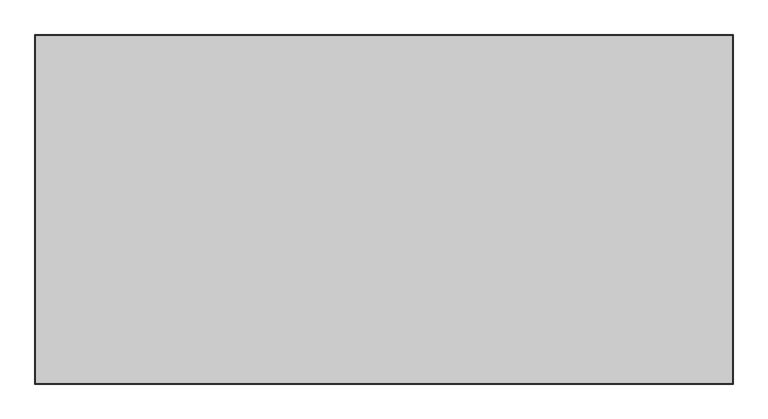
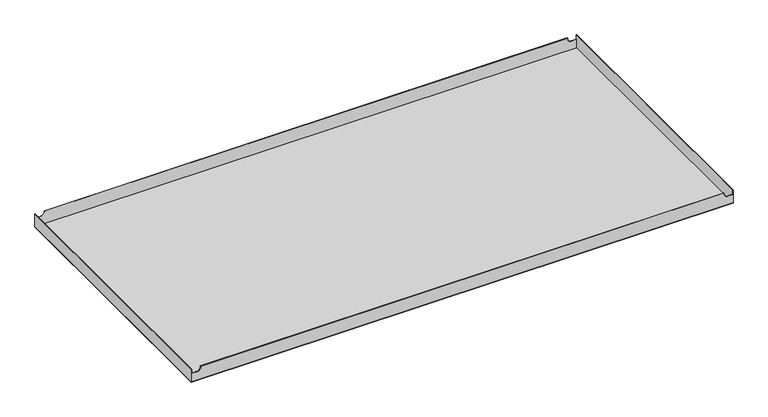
"""IFC4 building model written with IfcOpenShell, lengths in millimetres: proxy geometry, durlum_S1_RHOMBOS_panel : durlum_S1_RHOMBOS_panel."""

from ifc_helpers import new_model, si_unit, origin, origin_with_axes, place, context, project, spatial, polyline, outline, extrude, faceted_brep, source, transform, mapped, element, save


def generic_models_931bb0da(model_context):
    return source(origin(), model_context, "Body", "SolidModel", [
        faceted_brep([(-600.0, 300.0, 30.0), (-600.0, -300.0, 30.0), (-599.4, -300.0, 30.0), (-599.4, 300.0, 30.0), (600.0, -300.0, 30.0), (600.0, 300.0, 30.0), (599.4, 300.0, 30.0), (599.4, -300.0, 30.0), (-579.4, 300.0, 30.0), (-579.4, 299.4, 30.0), (579.4, 299.4, 30.0), (579.4, 300.0, 30.0), (-579.4, -299.4, 30.0), (-579.4, -300.0, 30.0), (579.4, -300.0, 30.0), (579.4, -299.4, 30.0), (600.0, 300.0, 0.6), (600.0, -300.0, 0.6), (-600.0, -300.0, 0.6), (-600.0, 300.0, 0.6), (599.4, 299.4, 0.6), (-599.4, 299.4, 0.6), (-599.4, -299.4, 0.6), (599.4, -299.4, 0.6), (-599.4, 300.0, 20.1669893), (-584.6658218, 300.0, 20.1669893), (-579.4, 300.0, 25.4328111), (579.4, 300.0, 25.4469988), (584.6800094, 300.0, 20.1669893), (599.4, 300.0, 20.1669893), (599.4, -300.0, 20.1669893), (584.6800094, -300.0, 20.1669893), (579.4, -300.0, 25.4469988), (-579.4, -300.0, 25.4328111), (-584.6658218, -300.0, 20.1669893), (-599.4, -300.0, 20.1669893), (599.4, 299.4, 20.1669893), (599.4, -299.4, 20.1669893), (-599.4, -299.4, 20.1669893), (-584.6658218, -299.4, 20.1669893), (-579.4, -299.4, 25.4328111), (579.4, -299.4, 25.4469988), (584.6800094, -299.4, 20.1669893), (-599.4, 299.4, 20.1669893), (584.6800094, 299.4, 20.1669893), (579.4, 299.4, 25.4469988), (-579.4, 299.4, 25.4328111), (-584.6658218, 299.4, 20.1669893)], [[[0, 1, 2, 3]], [[4, 5, 6, 7]], [[8, 9, 10, 11]], [[12, 13, 14, 15]], [[16, 17, 18, 19], [20, 21, 22, 23]], [[16, 19, 0, 3, 24, 25, 26, 8, 11, 27, 28, 29, 6, 5]], [[1, 0, 19, 18]], [[18, 17, 4, 7, 30, 31, 32, 14, 13, 33, 34, 35, 2, 1]], [[5, 4, 17, 16]], [[6, 29, 36, 20, 23, 37, 30, 7]], [[23, 22, 38, 39, 40, 12, 15, 41, 42, 37]], [[22, 21, 43, 24, 3, 2, 35, 38]], [[21, 20, 36, 44, 45, 10, 9, 46, 47, 43]], [[38, 35, 34, 39]], [[24, 43, 47, 25]], [[39, 34, 33, 40]], [[25, 47, 46, 26]], [[40, 33, 13, 12]], [[26, 46, 9, 8]], [[44, 28, 27, 45]], [[31, 42, 41, 32]], [[32, 41, 15, 14]], [[45, 27, 11, 10]], [[36, 29, 28, 44]], [[30, 37, 42, 31]]]),
        extrude(outline(polyline([(600.0, 300.0), (600.0, -300.0), (-600.0, -300.0), (-600.0, 300.0), (600.0, 300.0)])), origin_with_axes(), (0.0, 0.0, 1.0), 0.6),
    ])


if __name__ == "__main__":
    model = new_model("IFC4")
    model_context = context("Model", 3, world=origin())
    ifc_project = project(units=[si_unit("LENGTHUNIT", "METRE", prefix="MILLI")], contexts=[model_context])
    site = spatial("IfcSite", under=ifc_project)
    building = spatial("IfcBuilding", under=site)
    placement = place(None, origin())
    generic_models_shape = generic_models_931bb0da(model_context)
    element("IfcBuildingElementProxy", 1, Name="durlum_S1_RHOMBOS_panel : durlum_S1_RHOMBOS_panel", ObjectType="durlum_S1_RHOMBOS_panel : durlum_S1_RHOMBOS_panel", at=placement, inside=building, context=model_context, shape_type="MappedRepresentation", body=[
        mapped(generic_models_shape, transform((0.0, 0.0, 0.0), x_axis=(1.0, 0.0, 0.0), y_axis=(0.0, 1.0, 0.0), z_axis=(0.0, 0.0, 1.0))),
    ])
    save(model, "model.ifc")
